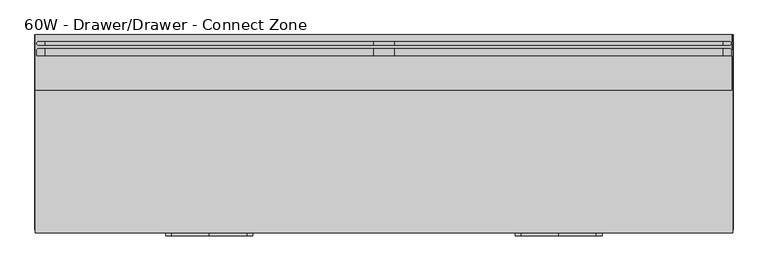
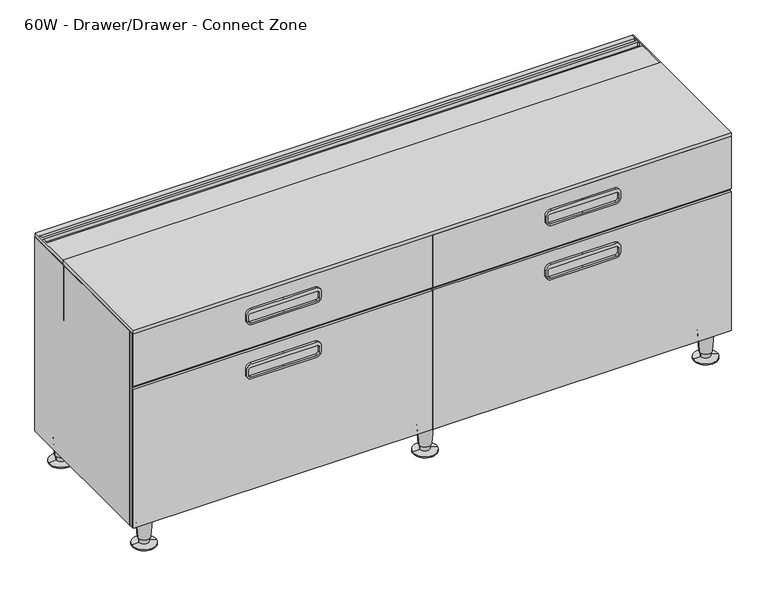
"""IFC4 building model written with IfcOpenShell, lengths in millimetres: furniture geometry, Steelcase - C Scape - Low Storage - 1.5 High - 60W and 72W : 60W - Drawer/Drawer - Connect Zone."""

from ifc_helpers import new_model, si_unit, point, frame, frame_2d, origin, place, context, project, spatial, polyline, circle_curve, trimmed, segment, composite_curve, outline, extrude, faceted_brep, source, transform, mapped, element, save
from ifc_brep_helpers import plane_surface, cylinder_surface, revolved_surface, advanced_brep


def furniture_60w_drawer_drawer_connect_zone_a07f5cdf(model_context):
    return source(origin(), model_context, "Body", "SolidModel", [
        advanced_brep(
        [(-302.0173728, -29.5783496, 599.4426137), (-302.0173728, -29.5783496, 458.7801967), (-302.0173728, -9.5194193, 458.7801967), (-302.0173728, -9.5194193, 466.2604814), (-302.0173728, 0.0055807, 466.2604814), (-302.0173728, 0.0055807, 599.4426137), (-302.0173728, -17.0388453, 599.4426137), (-302.0173728, -17.0388453, 609.5926846), (-302.0173728, -20.5059237, 609.5926846), (-302.0173728, -20.5059237, 599.4426137), (-302.0173728, -46.4703418, 599.4426137), (-302.0173728, -32.0458511, 599.4426137), (-302.0173728, -32.0458511, 609.5926846), (-302.0173728, -46.4703418, 609.5926846), (-304.8013237, -120.6444193, 599.4426137), (-304.8013237, -120.6444193, 609.5926846), (-304.8013237, 0.0055807, 609.5926846), (-304.8013237, 0.0055807, 466.2604814), (-304.8013237, -9.5194193, 466.2604814), (-304.8013237, -9.5194193, 458.7801967), (-304.8013237, -29.5783496, 458.7801967), (-304.8013237, -29.5783496, 599.4426137), (-299.2329352, -23.2903613, 599.4426137), (1212.1507358, -23.2903613, 599.4426137), (1215.1272317, -20.3138654, 599.4426137), (1215.1473728, -32.274699, 599.4426137), (1212.4308823, -29.5783496, 599.4426137), (-299.5498713, -29.5783496, 599.4426137), (1215.1473728, -46.4703418, 599.4426137), (1215.1473728, -120.5681445, 599.4426137), (-299.3205978, -14.3420703, 599.4426137), (1215.1473728, 0.0, 599.4426137), (1215.1473728, -17.0388453, 599.4426137), (1212.4505978, -14.3420703, 599.4426137), (1215.1473728, 0.0055807, 609.5926846), (1215.1473728, -120.5681445, 609.5926846), (1215.1473728, -46.4703418, 609.5926846), (-299.5498713, -29.5783496, 609.5926846), (1212.4308823, -29.5783496, 609.5926846), (1215.1272317, -32.274699, 609.5926846), (1215.1473728, -20.3138654, 609.5926846), (1212.1507358, -23.2903613, 609.5926846), (-299.2329352, -23.2903613, 609.5926846), (-299.3205978, -14.3420703, 609.5926846), (1212.4505978, -14.3420703, 609.5926846), (1215.1473728, -17.0388453, 609.5926846)],
        [
            (0, 1),
            (1, 2),
            (2, 3),
            (3, 4),
            (4, 5),
            (5, 6),
            (6, 7),
            (7, 8),
            (8, 9),
            (9, 0),
            (10, 11),
            (11, 12),
            (12, 13),
            (13, 10),
            (14, 15),
            (15, 16),
            (16, 17),
            (17, 18),
            (18, 19),
            (19, 20),
            (20, 21),
            (21, 14),
            (21, 0),
            (9, 22, circle_curve(frame((-299.2329352, -20.5059237, 599.4426137), z_axis=(0.0, 0.0, 1.0), x_axis=(1.0, 0.0, 0.0)), 2.7844376)),
            (22, 23),
            (23, 24, circle_curve(frame((1212.1507358, -20.3138654, 599.4426137), z_axis=(0.0, 0.0, 1.0), x_axis=(1.0, 0.0, 0.0)), 2.9764959)),
            (24, 25),
            (25, 26, circle_curve(frame((1212.4308823, -32.274699, 599.4426137), z_axis=(0.0, 0.0, 1.0), x_axis=(1.0, 0.0, 0.0)), 2.6963494)),
            (26, 27),
            (27, 11, circle_curve(frame((-299.5498713, -32.0458511, 599.4426137), z_axis=(0.0, 0.0, 1.0), x_axis=(1.0, 0.0, 0.0)), 2.4675015)),
            (10, 28),
            (28, 29),
            (29, 14),
            (30, 6, circle_curve(frame((-299.3205978, -17.0388453, 599.4426137), z_axis=(0.0, 0.0, 1.0), x_axis=(1.0, 0.0, 0.0)), 2.696775)),
            (5, 31),
            (31, 32),
            (32, 33, circle_curve(frame((1212.4505978, -17.0388453, 599.4426137), z_axis=(0.0, 0.0, 1.0), x_axis=(1.0, 0.0, 0.0)), 2.696775)),
            (33, 30),
            (20, 1),
            (19, 2),
            (18, 3),
            (17, 4),
            (16, 34),
            (34, 31),
            (15, 35),
            (35, 36),
            (36, 13),
            (12, 37, circle_curve(frame((-299.5498713, -32.0458511, 609.5926846), z_axis=(0.0, 0.0, -1.0), x_axis=(1.0, 0.0, 0.0)), 2.4675015)),
            (37, 38),
            (38, 39, circle_curve(frame((1212.4308823, -32.274699, 609.5926846), z_axis=(0.0, 0.0, -1.0), x_axis=(1.0, 0.0, 0.0)), 2.6963494)),
            (39, 40),
            (40, 41, circle_curve(frame((1212.1507358, -20.3138654, 609.5926846), z_axis=(0.0, 0.0, -1.0), x_axis=(1.0, 0.0, 0.0)), 2.9764959)),
            (41, 42),
            (42, 8, circle_curve(frame((-299.2329352, -20.5059237, 609.5926846), z_axis=(0.0, 0.0, -1.0), x_axis=(1.0, 0.0, 0.0)), 2.7844376)),
            (7, 43, circle_curve(frame((-299.3205978, -17.0388453, 609.5926846), z_axis=(0.0, 0.0, -1.0), x_axis=(1.0, 0.0, 0.0)), 2.696775)),
            (43, 44),
            (44, 45, circle_curve(frame((1212.4505978, -17.0388453, 609.5926846), z_axis=(0.0, 0.0, -1.0), x_axis=(1.0, 0.0, 0.0)), 2.696775)),
            (45, 34),
            (29, 35),
            (38, 26),
            (25, 39),
            (24, 40),
            (23, 41),
            (22, 42),
            (27, 37),
            (36, 28),
            (43, 30),
            (33, 44),
            (32, 45),
        ],
        [
            plane_surface(frame((-302.0173728, -120.6444193, 599.4426137), z_axis=(1.0, 0.0, 0.0), x_axis=(0.0, 1.0, 0.0))),
            plane_surface(frame((-304.8013237, -120.6444193, 599.4426137), z_axis=(-1.0, 0.0, 0.0), x_axis=(0.0, -1.0, 0.0))),
            plane_surface(frame((-302.0173728, -120.6444193, 599.4426137), z_axis=(0.0, 0.0, -1.0), x_axis=(-1.0, 0.0, 0.0))),
            plane_surface(frame((-302.0173728, -29.5783496, 599.4426137), z_axis=(0.0, -1.0, 0.0), x_axis=(-1.0, 0.0, 0.0))),
            plane_surface(frame((-302.0173728, -29.5783496, 458.7801967), z_axis=(0.0, 0.0, -1.0), x_axis=(-1.0, 0.0, 0.0))),
            plane_surface(frame((-302.0173728, -9.5194193, 458.7801967), z_axis=(0.0, 1.0, 0.0), x_axis=(-1.0, 0.0, 0.0))),
            plane_surface(frame((-302.0173728, -9.5194193, 466.2604814), z_axis=(0.0, 0.0, -1.0), x_axis=(-1.0, 0.0, 0.0))),
            plane_surface(frame((-302.0173728, 0.0055807, 466.2604814), z_axis=(0.0, 1.0, 0.0), x_axis=(-1.0, 0.0, 0.0))),
            plane_surface(frame((-302.0173728, 0.0055807, 609.5926846), z_axis=(0.0, 0.0, 1.0), x_axis=(-1.0, 0.0, 0.0))),
            plane_surface(frame((-302.0173728, -120.6444193, 609.5926846), z_axis=(0.0, -1.0, 0.0), x_axis=(-1.0, 0.0, 0.0))),
            revolved_surface(polyline([(1215.1272316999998, -32.274699, 599.4426137), (1215.1272316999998, -32.274699, 609.5926846)]), (1212.4308823, -32.274699, 599.4426137), (0.0, 0.0, -1.0)),
            plane_surface(frame((1215.1473728, -32.274699, 609.5926846), z_axis=(1.0, 0.0, 0.0), x_axis=(0.0, 0.0, -1.0))),
            revolved_surface(polyline([(1215.1272316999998, -20.3138654, 599.4426137), (1215.1272316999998, -20.3138654, 609.5926846)]), (1212.1507358, -20.3138654, 599.4426137), (0.0, 0.0, -1.0)),
            plane_surface(frame((1212.1507358, -23.2903613, 609.5926846), z_axis=(0.0, 1.0, 0.0), x_axis=(0.0, 0.0, -1.0))),
            revolved_surface(polyline([(-296.4484976, -20.5059237, 599.4426137), (-296.4484976, -20.5059237, 609.5926846)]), (-299.2329352, -20.5059237, 599.4426137), (0.0, 0.0, -1.0)),
            revolved_surface(polyline([(-297.0823698, -32.0458511, 599.4426137), (-297.0823698, -32.0458511, 609.5926846)]), (-299.5498713, -32.0458511, 599.4426137), (0.0, 0.0, -1.0)),
            plane_surface(frame((-299.5498713, -29.5783496, 609.5926846), z_axis=(0.0, -1.0, 0.0), x_axis=(0.0, 0.0, -1.0))),
            plane_surface(frame((1215.1473728, -46.4703418, 609.5926846), z_axis=(0.0, 1.0, 0.0), x_axis=(0.0, 0.0, -1.0))),
            plane_surface(frame((1215.1473728, -120.5681445, 609.5926846), z_axis=(1.0, 0.0, 0.0), x_axis=(0.0, 0.0, -1.0))),
            plane_surface(frame((-299.3205978, -14.3420703, 609.5926846), z_axis=(0.0, -1.0, 0.0), x_axis=(0.0, 0.0, -1.0))),
            revolved_surface(polyline([(1215.1473727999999, -17.0388453, 599.4426137), (1215.1473727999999, -17.0388453, 609.5926846)]), (1212.4505978, -17.0388453, 41.6222656), (0.0, 0.0, -1.0)),
            plane_surface(frame((1215.1473728, -17.0388453, 609.5926846), z_axis=(1.0, 0.0, 0.0), x_axis=(0.0, 0.0, -1.0))),
            revolved_surface(polyline([(-296.62382279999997, -17.0388453, 599.4426137), (-296.62382279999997, -17.0388453, 609.5926846)]), (-299.3205978, -17.0388453, 41.6222656), (0.0, 0.0, -1.0)),
        ],
        [
            (0, [[1, 2, 3, 4, 5, 6, 7, 8, 9, 10]]),
            (0, [[11, 12, 13, 14]]),
            (1, [[15, 16, 17, 18, 19, 20, 21, 22]]),
            (2, [[-22, 23, -10, 24, 25, 26, 27, 28, 29, 30, -11, 31, 32, 33]]),
            (2, [[34, -6, 35, 36, 37, 38]]),
            (3, [[-1, -23, -21, 39]]),
            (4, [[-2, -39, -20, 40]]),
            (5, [[-3, -40, -19, 41]]),
            (6, [[-4, -41, -18, 42]]),
            (7, [[-17, 43, 44, -35, -5, -42]]),
            (8, [[-43, -16, 45, 46, 47, -13, 48, 49, 50, 51, 52, 53, 54, -8, 55, 56, 57, 58]]),
            (9, [[-45, -15, -33, 59]]),
            (10, [[-50, 60, -28, 61]]),
            (11, [[-51, -61, -27, 62]]),
            (12, [[-52, -62, -26, 63]]),
            (13, [[-53, -63, -25, 64]]),
            (14, [[-54, -64, -24, -9]]),
            (15, [[-48, -12, -30, 65]]),
            (16, [[-49, -65, -29, -60]]),
            (17, [[-47, 66, -31, -14]]),
            (18, [[-46, -59, -32, -66]]),
            (19, [[-56, 67, -38, 68]]),
            (20, [[-57, -68, -37, 69]]),
            (21, [[-58, -69, -36, -44]]),
            (22, [[-55, -7, -34, -67]]),
        ],
    ),
        extrude(outline(polyline([(458.7240097, 572.1950189), (432.6382043, 572.1950189), (432.6382043, 449.8975), (432.6382043, 340.9349811), (458.7240097, 340.9349811), (458.7240097, -304.8013237), (92.7100024, -304.8013237), (92.7100024, 1217.93), (458.7240097, 1217.93), (458.7240097, 572.1950189)])), frame((0.0, -9.5194193, 0.0), z_axis=(0.0, 1.0, 0.0), x_axis=(0.0, 0.0, 1.0)), (0.0, 0.0, 1.0), 9.525),
        extrude(outline(polyline([(-120.6444193, 609.6), (-120.6444193, 450.8499879), (-126.9863574, 450.8499879), (-126.9863574, 599.4499291), (-433.07, 599.4499291), (-433.07, 609.6), (-120.6444193, 609.6)])), frame((-304.8013237, 0.0, 0.0), z_axis=(1.0, 0.0, 0.0), x_axis=(0.0, 1.0, 0.0)), (0.0, 0.0, 1.0), 1522.7313237),
        extrude(outline(polyline([(-120.6444193, 599.4426137), (-120.6444193, 609.5926846), (0.0055807, 609.5926846), (0.0055807, 466.2604814), (-9.5194193, 466.2604814), (-9.5194193, 458.7801967), (-29.5783496, 458.7801967), (-29.5783496, 599.4426137), (-120.6444193, 599.4426137)])), frame((1215.1473728, 0.0, 0.0), z_axis=(1.0, 0.0, 0.0), x_axis=(0.0, 1.0, 0.0)), (0.0, 0.0, 1.0), 2.7826272),
        extrude(outline(polyline([(76.1508625, -305.435), (76.1508625, 1218.565), (599.4400097, 1218.565), (599.4400097, 457.132594), (599.4400097, -305.435), (76.1508625, -305.435)]), holes=[polyline([(92.7100024, 447.6410976), (92.7100024, -283.4617676), (436.8800097, -283.4617676), (436.8800097, 447.6410976), (92.7100024, 447.6410976)]), polyline([(588.9625, -283.4617676), (588.9625, 447.6410976), (458.7240097, 447.6410976), (458.7240097, -283.4617676), (588.9625, -283.4617676)]), polyline([(436.8800097, 465.4889024), (436.8800097, 1196.5917676), (92.7100024, 1196.5917676), (92.7100024, 465.4889024), (436.8800097, 465.4889024)]), polyline([(588.9625, 1196.5917676), (458.7240097, 1196.5917676), (458.7240097, 465.4889024), (588.9625, 465.4889024), (588.9625, 1196.5917676)])]), frame((0.0, -426.7186111, 0.0), z_axis=(0.0, 1.0, 0.0), x_axis=(0.0, 0.0, 1.0)), (0.0, 0.0, 1.0), 7.3648883),
        extrude(outline(polyline([(1218.565, 0.0), (1218.565, -419.3537227), (1196.5917676, -419.3537227), (1196.5917676, 0.0), (1218.565, 0.0)])), frame((0.0, 0.0, 76.2), z_axis=(0.0, 0.0, 1.0), x_axis=(1.0, 0.0, 0.0)), (0.0, 0.0, 1.0), 523.2400097),
        extrude(outline(polyline([(-283.4630912, -419.3537227), (-305.435, -419.3537227), (-305.435, 0.0), (-283.4630912, 0.0), (-283.4630912, -419.3537227)])), frame((0.0, 0.0, 76.2), z_axis=(0.0, 0.0, 1.0), x_axis=(1.0, 0.0, 0.0)), (0.0, 0.0, 1.0), 523.2400097),
        extrude(outline(polyline([(434.0224874, -415.2912402), (434.0224874, -9.525), (479.1075126, -9.525), (479.1075126, -415.2912402), (434.0224874, -415.2912402)])), frame((0.0, 0.0, 76.2), z_axis=(0.0, 0.0, 1.0), x_axis=(1.0, 0.0, 0.0)), (0.0, 0.0, 1.0), 523.2400097),
        extrude(outline(polyline([(479.1075126, -9.525), (1196.5917676, -9.525), (1196.5917676, -415.2912402), (479.1075126, -415.2912402), (479.1075126, -9.525)])), frame((0.0, 0.0, 436.8800097), z_axis=(0.0, 0.0, 1.0), x_axis=(1.0, 0.0, 0.0)), (0.0, 0.0, 1.0), 21.844),
        extrude(outline(polyline([(434.0224874, -415.2912402), (-283.4617676, -415.2912402), (-283.4617676, -9.525), (434.0224874, -9.525), (434.0224874, -415.2912402)])), frame((0.0, 0.0, 436.8800097), z_axis=(0.0, 0.0, 1.0), x_axis=(1.0, 0.0, 0.0)), (0.0, 0.0, 1.0), 21.844),
        extrude(outline(composite_curve([segment(polyline([(419.0999879, 157.4804108), (419.0999879, 75.247655), (419.0999879, -6.9851007)]), True, "CONTINUOUS"), segment(trimmed(circle_curve(frame_2d((406.3999879, -6.9851007)), 12.7), [point((419.0999879, -6.9851007))], [point((406.3999879, -19.6851007))], False, "CARTESIAN"), True, "CONTINUOUS"), segment(polyline([(406.3999879, -19.6851007), (391.795017, -19.6851007)]), True, "CONTINUOUS"), segment(trimmed(circle_curve(frame_2d((391.795017, -6.9851007)), 12.7), [point((391.795017, -19.6851007))], [point((379.095017, -6.9851007))], False, "CARTESIAN"), True, "CONTINUOUS"), segment(polyline([(379.095017, -6.9851007), (379.095017, 75.247655), (379.095017, 157.4804108)]), True, "CONTINUOUS"), segment(trimmed(circle_curve(frame_2d((391.795017, 157.4804108)), 12.7), [point((379.095017, 157.4804108))], [point((391.795017, 170.1804108))], False, "CARTESIAN"), True, "CONTINUOUS"), segment(polyline([(391.795017, 170.1804108), (406.3999879, 170.1804108)]), True, "CONTINUOUS"), segment(trimmed(circle_curve(frame_2d((406.3999879, 157.4804108)), 12.7), [point((406.3999879, 170.1804108))], [point((419.0999879, 157.4804108))], False, "CARTESIAN"), True, "CONTINUOUS")], self_intersect=False), holes=[composite_curve([segment(polyline([(402.9710063, 165.3527985), (390.2709942, 165.3527985)]), True, "CONTINUOUS"), segment(trimmed(circle_curve(frame_2d((390.2709942, 159.0027985)), 6.35), [point((390.2709942, 165.3527985))], [point((383.9209942, 159.0027985))], True, "CARTESIAN"), True, "CONTINUOUS"), segment(polyline([(383.9209942, 159.0027985), (383.9209942, 75.247655), (383.9209942, -8.5074884)]), True, "CONTINUOUS"), segment(trimmed(circle_curve(frame_2d((390.2709942, -8.5074884)), 6.35), [point((383.9209942, -8.5074884))], [point((390.2709942, -14.8574884))], True, "CARTESIAN"), True, "CONTINUOUS"), segment(polyline([(390.2709942, -14.8574884), (402.9710063, -14.8574884)]), True, "CONTINUOUS"), segment(trimmed(circle_curve(frame_2d((402.9710063, -8.5074884)), 6.35), [point((402.9710063, -14.8574884))], [point((409.3210063, -8.5074884))], True, "CARTESIAN"), True, "CONTINUOUS"), segment(polyline([(409.3210063, -8.5074884), (409.3210063, 75.247655), (409.3210063, 159.0027985)]), True, "CONTINUOUS"), segment(trimmed(circle_curve(frame_2d((402.9710063, 159.0027985)), 6.35), [point((409.3210063, 159.0027985))], [point((402.9710063, 165.3527985))], True, "CARTESIAN"), True, "CONTINUOUS")], self_intersect=False)]), frame((0.0, -439.42, 0.0), z_axis=(0.0, 1.0, 0.0), x_axis=(0.0, 0.0, 1.0)), (0.0, 0.0, 1.0), 6.35),
        extrude(outline(composite_curve([segment(trimmed(circle_curve(frame_2d((406.3999879, 755.3320892)), 12.7), [point((419.0999879, 755.3320892))], [point((406.3999879, 742.6320892))], False, "CARTESIAN"), True, "CONTINUOUS"), segment(polyline([(406.3999879, 742.6320892), (391.795017, 742.6320892)]), True, "CONTINUOUS"), segment(trimmed(circle_curve(frame_2d((391.795017, 755.3320892)), 12.7), [point((391.795017, 742.6320892))], [point((379.095017, 755.3320892))], False, "CARTESIAN"), True, "CONTINUOUS"), segment(polyline([(379.095017, 755.3320892), (379.095017, 837.564845), (379.095017, 919.7976007)]), True, "CONTINUOUS"), segment(trimmed(circle_curve(frame_2d((391.795017, 919.7976007)), 12.7), [point((379.095017, 919.7976007))], [point((391.795017, 932.4976007))], False, "CARTESIAN"), True, "CONTINUOUS"), segment(polyline([(391.795017, 932.4976007), (406.3999879, 932.4976007)]), True, "CONTINUOUS"), segment(trimmed(circle_curve(frame_2d((406.3999879, 919.7976007)), 12.7), [point((406.3999879, 932.4976007))], [point((419.0999879, 919.7976007))], False, "CARTESIAN"), True, "CONTINUOUS"), segment(polyline([(419.0999879, 919.7976007), (419.0999879, 837.564845), (419.0999879, 755.3320892)]), True, "CONTINUOUS")], self_intersect=False), holes=[composite_curve([segment(trimmed(circle_curve(frame_2d((402.9710063, 753.8097015)), 6.35), [point((402.9710063, 747.4597015))], [point((409.3210063, 753.8097015))], True, "CARTESIAN"), True, "CONTINUOUS"), segment(polyline([(409.3210063, 753.8097015), (409.3210063, 837.564845), (409.3210063, 921.3199884)]), True, "CONTINUOUS"), segment(trimmed(circle_curve(frame_2d((402.9710063, 921.3199884)), 6.35), [point((409.3210063, 921.3199884))], [point((402.9710063, 927.6699884))], True, "CARTESIAN"), True, "CONTINUOUS"), segment(polyline([(402.9710063, 927.6699884), (390.2709942, 927.6699884)]), True, "CONTINUOUS"), segment(trimmed(circle_curve(frame_2d((390.2709942, 921.3199884)), 6.35), [point((390.2709942, 927.6699884))], [point((383.9209942, 921.3199884))], True, "CARTESIAN"), True, "CONTINUOUS"), segment(polyline([(383.9209942, 921.3199884), (383.9209942, 837.564845), (383.9209942, 753.8097015)]), True, "CONTINUOUS"), segment(trimmed(circle_curve(frame_2d((390.2709942, 753.8097015)), 6.35), [point((383.9209942, 753.8097015))], [point((390.2709942, 747.4597015))], True, "CARTESIAN"), True, "CONTINUOUS"), segment(polyline([(390.2709942, 747.4597015), (402.9710063, 747.4597015)]), True, "CONTINUOUS")], self_intersect=False)]), frame((0.0, -439.42, 0.0), z_axis=(0.0, 1.0, 0.0), x_axis=(0.0, 0.0, 1.0)), (0.0, 0.0, 1.0), 6.35),
        extrude(outline(polyline([(455.9303101, -426.7186111), (455.9303101, -433.07), (-304.8, -433.07), (-304.8, -426.7186111), (455.9303101, -426.7186111)])), frame((0.0, 0.0, 458.7240097), z_axis=(0.0, 0.0, 1.0), x_axis=(1.0, 0.0, 0.0)), (0.0, 0.0, 1.0), 140.716),
        extrude(outline(polyline([(457.1996899, -426.7186111), (1217.93, -426.7186111), (1217.93, -433.07), (457.1996899, -433.07), (457.1996899, -426.7186111)])), frame((0.0, 0.0, 458.7240097), z_axis=(0.0, 0.0, 1.0), x_axis=(1.0, 0.0, 0.0)), (0.0, 0.0, 1.0), 140.716),
        faceted_brep([(-283.4617676, -419.3537227, 92.7100024), (1196.5917676, -419.3537227, 92.7100024), (1196.5917676, -9.525, 92.7100024), (479.1075126, -9.525, 92.7100024), (479.1075126, -415.2912402, 92.7100024), (434.0224874, -415.2912402, 92.7100024), (434.0224874, -9.525, 92.7100024), (-283.4617676, -9.525, 92.7100024), (1218.565, 0.0, 76.2), (1218.565, -419.3537227, 76.2), (-305.435, -419.3537227, 76.2), (-305.435, 0.0, 76.2), (-283.4630912, -419.3537227, 599.4400097), (-305.435, -419.3537227, 599.4400097), (1218.565, -419.3537227, 599.4400097), (1196.5917676, -419.3537227, 599.4400097), (-305.435, 0.0, 599.4400097), (1218.565, 0.0, 599.4400097), (-283.4630912, -9.525, 599.4400097), (434.0224874, -9.525, 599.4400097), (434.0224874, -415.2912402, 599.4400097), (479.1075126, -415.2912402, 599.4400097), (479.1075126, -9.525, 599.4400097), (1196.5917676, -9.525, 599.4400097)], [[[0, 1, 2, 3, 4, 5, 6, 7]], [[8, 9, 10, 11]], [[1, 0, 12, 13, 10, 9, 14, 15]], [[8, 11, 16, 17]], [[16, 13, 12, 18, 19, 20, 21, 22, 23, 15, 14, 17]], [[18, 12, 0, 7]], [[19, 18, 7, 6]], [[20, 19, 6, 5]], [[22, 21, 4, 3]], [[23, 22, 3, 2]], [[15, 23, 2, 1]], [[13, 16, 11, 10]], [[17, 14, 9, 8]], [[21, 20, 5, 4]]]),
        extrude(outline(composite_curve([segment(polyline([(565.1499879, 157.4804108), (565.1499879, 75.247655), (565.1499879, -6.9851007)]), True, "CONTINUOUS"), segment(trimmed(circle_curve(frame_2d((552.4499879, -6.9851007)), 12.7), [point((565.1499879, -6.9851007))], [point((552.4499879, -19.6851007))], False, "CARTESIAN"), True, "CONTINUOUS"), segment(polyline([(552.4499879, -19.6851007), (537.845017, -19.6851007)]), True, "CONTINUOUS"), segment(trimmed(circle_curve(frame_2d((537.845017, -6.9851007)), 12.7), [point((537.845017, -19.6851007))], [point((525.145017, -6.9851007))], False, "CARTESIAN"), True, "CONTINUOUS"), segment(polyline([(525.145017, -6.9851007), (525.145017, 75.247655), (525.145017, 157.4804108)]), True, "CONTINUOUS"), segment(trimmed(circle_curve(frame_2d((537.845017, 157.4804108)), 12.7), [point((525.145017, 157.4804108))], [point((537.845017, 170.1804108))], False, "CARTESIAN"), True, "CONTINUOUS"), segment(polyline([(537.845017, 170.1804108), (552.4499879, 170.1804108)]), True, "CONTINUOUS"), segment(trimmed(circle_curve(frame_2d((552.4499879, 157.4804108)), 12.7), [point((552.4499879, 170.1804108))], [point((565.1499879, 157.4804108))], False, "CARTESIAN"), True, "CONTINUOUS")], self_intersect=False), holes=[composite_curve([segment(polyline([(549.0210063, 165.3527985), (536.3209942, 165.3527985)]), True, "CONTINUOUS"), segment(trimmed(circle_curve(frame_2d((536.3209942, 159.0027985)), 6.35), [point((536.3209942, 165.3527985))], [point((529.9709942, 159.0027985))], True, "CARTESIAN"), True, "CONTINUOUS"), segment(polyline([(529.9709942, 159.0027985), (529.9709942, 75.247655), (529.9709942, -8.5074884)]), True, "CONTINUOUS"), segment(trimmed(circle_curve(frame_2d((536.3209942, -8.5074884)), 6.35), [point((529.9709942, -8.5074884))], [point((536.3209942, -14.8574884))], True, "CARTESIAN"), True, "CONTINUOUS"), segment(polyline([(536.3209942, -14.8574884), (549.0210063, -14.8574884)]), True, "CONTINUOUS"), segment(trimmed(circle_curve(frame_2d((549.0210063, -8.5074884)), 6.35), [point((549.0210063, -14.8574884))], [point((555.3710063, -8.5074884))], True, "CARTESIAN"), True, "CONTINUOUS"), segment(polyline([(555.3710063, -8.5074884), (555.3710063, 75.247655), (555.3710063, 159.0027985)]), True, "CONTINUOUS"), segment(trimmed(circle_curve(frame_2d((549.0210063, 159.0027985)), 6.35), [point((555.3710063, 159.0027985))], [point((549.0210063, 165.3527985))], True, "CARTESIAN"), True, "CONTINUOUS")], self_intersect=False)]), frame((0.0, -439.42, 0.0), z_axis=(0.0, 1.0, 0.0), x_axis=(0.0, 0.0, 1.0)), (0.0, 0.0, 1.0), 6.35),
        extrude(outline(polyline([(455.9303101, -426.7186111), (455.9303101, -433.07), (-304.8, -433.07), (-304.8, -426.7186111), (455.9303101, -426.7186111)])), frame((0.0, 0.0, 76.2), z_axis=(0.0, 0.0, 1.0), x_axis=(1.0, 0.0, 0.0)), (0.0, 0.0, 1.0), 374.6500097),
        advanced_brep(
        [(427.4539515, -29.9489775, 0.0), (485.6760485, -38.8569507, 0.0), (456.565, -34.4029641, 0.0), (427.4539515, -29.9489775, 2.5119506), (485.6760485, -38.8569507, 2.5119506), (444.802835, -32.6033544, 5.7545598), (468.327165, -36.2025738, 5.7545598), (444.1140655, -32.4979728, 19.05), (469.0159345, -36.3079555, 19.05), (441.6844786, -32.1262463, 19.05), (471.4455214, -36.6796819, 19.05), (437.7341305, -31.5218435, 76.2), (475.3958695, -37.2840847, 76.2), (456.565, -34.4029641, 76.2)],
        [
            (0, 1, circle_curve(frame((456.565, -34.4029641, 0.0), z_axis=(0.0, 0.0, -1.0), x_axis=(0.0, -1.0, 0.0)), 29.4498071)),
            (1, 2),
            (2, 0),
            (1, 0, circle_curve(frame((456.565, -34.4029641, 0.0), z_axis=(0.0, 0.0, -1.0), x_axis=(0.0, -1.0, 0.0)), 29.4498071)),
            (3, 4, circle_curve(frame((456.565, -34.4029641, 2.5119506), z_axis=(0.0, 0.0, -1.0), x_axis=(0.0, -1.0, 0.0)), 29.4498071)),
            (4, 1),
            (0, 3),
            (4, 3, circle_curve(frame((456.565, -34.4029641, 2.5119506), z_axis=(0.0, 0.0, -1.0), x_axis=(0.0, -1.0, 0.0)), 29.4498071)),
            (5, 6, circle_curve(frame((456.565, -34.4029641, 5.7545598), z_axis=(0.0, 0.0, -1.0), x_axis=(0.0, -1.0, 0.0)), 11.8990387)),
            (6, 4),
            (3, 5),
            (6, 5, circle_curve(frame((456.565, -34.4029641, 5.7545598), z_axis=(0.0, 0.0, -1.0), x_axis=(0.0, -1.0, 0.0)), 11.8990387)),
            (7, 8, circle_curve(frame((456.565, -34.4029641, 19.05), z_axis=(0.0, 0.0, -1.0), x_axis=(0.0, -1.0, 0.0)), 12.5958232)),
            (8, 6),
            (5, 7),
            (8, 7, circle_curve(frame((456.565, -34.4029641, 19.05), z_axis=(0.0, 0.0, -1.0), x_axis=(0.0, -1.0, 0.0)), 12.5958232)),
            (9, 10, circle_curve(frame((456.565, -34.4029641, 19.05), z_axis=(0.0, 0.0, -1.0), x_axis=(0.0, -1.0, 0.0)), 15.0536827)),
            (10, 8),
            (7, 9),
            (10, 9, circle_curve(frame((456.565, -34.4029641, 19.05), z_axis=(0.0, 0.0, -1.0), x_axis=(0.0, -1.0, 0.0)), 15.0536827)),
            (11, 12, circle_curve(frame((456.565, -34.4029641, 76.2), z_axis=(0.0, 0.0, -1.0), x_axis=(0.0, -1.0, 0.0)), 19.05)),
            (12, 10),
            (9, 11),
            (12, 11, circle_curve(frame((456.565, -34.4029641, 76.2), z_axis=(0.0, 0.0, -1.0), x_axis=(0.0, -1.0, 0.0)), 19.05)),
            (13, 12),
            (11, 13),
        ],
        [
            plane_surface(frame((456.565, -34.4029641, 0.0), z_axis=(0.0, 0.0, -1.0), x_axis=(0.0, -1.0, 0.0))),
            cylinder_surface(frame((456.565, -34.4029641, 25.4), z_axis=(0.0, 0.0, 1.0), x_axis=(0.0, -1.0, 0.0)), 29.4498071),
            revolved_surface(polyline([(456.565, -63.8527712, 2.5119506), (456.565, -46.3020028, 5.7545598)]), (456.565, -34.4029641, 25.4), (0.0, 0.0, 1.0)),
            revolved_surface(polyline([(456.565, -46.3020028, 5.7545598), (456.565, -46.9987873, 19.05)]), (456.565, -34.4029641, 25.4), (0.0, 0.0, 1.0)),
            plane_surface(frame((456.565, -34.4029641, 19.05), z_axis=(0.0, 0.0, -1.0), x_axis=(0.0, -1.0, 0.0))),
            revolved_surface(polyline([(456.565, -49.4566468, 19.05), (456.565, -53.4529641, 76.2)]), (456.565, -34.4029641, 25.4), (0.0, 0.0, 1.0)),
            plane_surface(frame((456.565, -34.4029641, 76.2), z_axis=(0.0, 0.0, 1.0), x_axis=(0.0, -1.0, 0.0))),
        ],
        [
            (0, [[1, 2, 3]]),
            (0, [[4, -3, -2]]),
            (1, [[5, 6, -1, 7]]),
            (1, [[8, -7, -4, -6]]),
            (2, [[9, 10, -5, 11]]),
            (2, [[12, -11, -8, -10]]),
            (3, [[13, 14, -9, 15]]),
            (3, [[16, -15, -12, -14]]),
            (4, [[17, 18, -13, 19]]),
            (4, [[20, -19, -16, -18]]),
            (5, [[21, 22, -17, 23]]),
            (5, [[24, -23, -20, -22]]),
            (6, [[25, -21, 26]]),
            (6, [[-26, -24, -25]]),
        ],
    ),
        advanced_brep(
        [(427.4539515, -395.5974102, 0.0), (485.6760485, -404.5053834, 0.0), (456.565, -400.0513968, 0.0), (427.4539515, -395.5974102, 2.5119506), (485.6760485, -404.5053834, 2.5119506), (444.802835, -398.2517871, 5.7545598), (468.327165, -401.8510065, 5.7545598), (444.1140655, -398.1464055, 19.05), (469.0159345, -401.9563882, 19.05), (441.6844786, -397.774679, 19.05), (471.4455214, -402.3281146, 19.05), (437.7341305, -397.1702762, 76.2), (475.3958695, -402.9325174, 76.2), (456.565, -400.0513968, 76.2)],
        [
            (0, 1, circle_curve(frame((456.565, -400.0513968, 0.0), z_axis=(0.0, 0.0, -1.0), x_axis=(0.0, -1.0, 0.0)), 29.4498071)),
            (1, 2),
            (2, 0),
            (1, 0, circle_curve(frame((456.565, -400.0513968, 0.0), z_axis=(0.0, 0.0, -1.0), x_axis=(0.0, -1.0, 0.0)), 29.4498071)),
            (3, 4, circle_curve(frame((456.565, -400.0513968, 2.5119506), z_axis=(0.0, 0.0, -1.0), x_axis=(0.0, -1.0, 0.0)), 29.4498071)),
            (4, 1),
            (0, 3),
            (4, 3, circle_curve(frame((456.565, -400.0513968, 2.5119506), z_axis=(0.0, 0.0, -1.0), x_axis=(0.0, -1.0, 0.0)), 29.4498071)),
            (5, 6, circle_curve(frame((456.565, -400.0513968, 5.7545598), z_axis=(0.0, 0.0, -1.0), x_axis=(0.0, -1.0, 0.0)), 11.8990387)),
            (6, 4),
            (3, 5),
            (6, 5, circle_curve(frame((456.565, -400.0513968, 5.7545598), z_axis=(0.0, 0.0, -1.0), x_axis=(0.0, -1.0, 0.0)), 11.8990387)),
            (7, 8, circle_curve(frame((456.565, -400.0513968, 19.05), z_axis=(0.0, 0.0, -1.0), x_axis=(0.0, -1.0, 0.0)), 12.5958232)),
            (8, 6),
            (5, 7),
            (8, 7, circle_curve(frame((456.565, -400.0513968, 19.05), z_axis=(0.0, 0.0, -1.0), x_axis=(0.0, -1.0, 0.0)), 12.5958232)),
            (9, 10, circle_curve(frame((456.565, -400.0513968, 19.05), z_axis=(0.0, 0.0, -1.0), x_axis=(0.0, -1.0, 0.0)), 15.0536827)),
            (10, 8),
            (7, 9),
            (10, 9, circle_curve(frame((456.565, -400.0513968, 19.05), z_axis=(0.0, 0.0, -1.0), x_axis=(0.0, -1.0, 0.0)), 15.0536827)),
            (11, 12, circle_curve(frame((456.565, -400.0513968, 76.2), z_axis=(0.0, 0.0, -1.0), x_axis=(0.0, -1.0, 0.0)), 19.05)),
            (12, 10),
            (9, 11),
            (12, 11, circle_curve(frame((456.565, -400.0513968, 76.2), z_axis=(0.0, 0.0, -1.0), x_axis=(0.0, -1.0, 0.0)), 19.05)),
            (13, 12),
            (11, 13),
        ],
        [
            plane_surface(frame((456.565, -400.0513968, 0.0), z_axis=(0.0, 0.0, -1.0), x_axis=(0.0, -1.0, 0.0))),
            cylinder_surface(frame((456.565, -400.0513968, 25.4), z_axis=(0.0, 0.0, 1.0), x_axis=(0.0, -1.0, 0.0)), 29.4498071),
            revolved_surface(polyline([(456.565, -429.5012039, 2.5119506), (456.565, -411.9504355, 5.7545598)]), (456.565, -400.0513968, 25.4), (0.0, 0.0, 1.0)),
            revolved_surface(polyline([(456.565, -411.9504355, 5.7545598), (456.565, -412.64722, 19.05)]), (456.565, -400.0513968, 25.4), (0.0, 0.0, 1.0)),
            plane_surface(frame((456.565, -400.0513968, 19.05), z_axis=(0.0, 0.0, -1.0), x_axis=(0.0, -1.0, 0.0))),
            revolved_surface(polyline([(456.565, -415.1050795, 19.05), (456.565, -419.1013968, 76.2)]), (456.565, -400.0513968, 25.4), (0.0, 0.0, 1.0)),
            plane_surface(frame((456.565, -400.0513968, 76.2), z_axis=(0.0, 0.0, 1.0), x_axis=(0.0, -1.0, 0.0))),
        ],
        [
            (0, [[1, 2, 3]]),
            (0, [[4, -3, -2]]),
            (1, [[5, 6, -1, 7]]),
            (1, [[8, -7, -4, -6]]),
            (2, [[9, 10, -5, 11]]),
            (2, [[12, -11, -8, -10]]),
            (3, [[13, 14, -9, 15]]),
            (3, [[16, -15, -12, -14]]),
            (4, [[17, 18, -13, 19]]),
            (4, [[20, -19, -16, -18]]),
            (5, [[21, 22, -17, 23]]),
            (5, [[24, -23, -20, -22]]),
            (6, [[25, -21, 26]]),
            (6, [[-26, -24, -25]]),
        ],
    ),
        extrude(outline(composite_curve([segment(trimmed(circle_curve(frame_2d((552.4499879, 755.3320892)), 12.7), [point((565.1499879, 755.3320892))], [point((552.4499879, 742.6320892))], False, "CARTESIAN"), True, "CONTINUOUS"), segment(polyline([(552.4499879, 742.6320892), (537.845017, 742.6320892)]), True, "CONTINUOUS"), segment(trimmed(circle_curve(frame_2d((537.845017, 755.3320892)), 12.7), [point((537.845017, 742.6320892))], [point((525.145017, 755.3320892))], False, "CARTESIAN"), True, "CONTINUOUS"), segment(polyline([(525.145017, 755.3320892), (525.145017, 837.564845), (525.145017, 919.7976007)]), True, "CONTINUOUS"), segment(trimmed(circle_curve(frame_2d((537.845017, 919.7976007)), 12.7), [point((525.145017, 919.7976007))], [point((537.845017, 932.4976007))], False, "CARTESIAN"), True, "CONTINUOUS"), segment(polyline([(537.845017, 932.4976007), (552.4499879, 932.4976007)]), True, "CONTINUOUS"), segment(trimmed(circle_curve(frame_2d((552.4499879, 919.7976007)), 12.7), [point((552.4499879, 932.4976007))], [point((565.1499879, 919.7976007))], False, "CARTESIAN"), True, "CONTINUOUS"), segment(polyline([(565.1499879, 919.7976007), (565.1499879, 837.564845), (565.1499879, 755.3320892)]), True, "CONTINUOUS")], self_intersect=False), holes=[composite_curve([segment(trimmed(circle_curve(frame_2d((549.0210063, 753.8097015)), 6.35), [point((549.0210063, 747.4597015))], [point((555.3710063, 753.8097015))], True, "CARTESIAN"), True, "CONTINUOUS"), segment(polyline([(555.3710063, 753.8097015), (555.3710063, 837.564845), (555.3710063, 921.3199884)]), True, "CONTINUOUS"), segment(trimmed(circle_curve(frame_2d((549.0210063, 921.3199884)), 6.35), [point((555.3710063, 921.3199884))], [point((549.0210063, 927.6699884))], True, "CARTESIAN"), True, "CONTINUOUS"), segment(polyline([(549.0210063, 927.6699884), (536.3209942, 927.6699884)]), True, "CONTINUOUS"), segment(trimmed(circle_curve(frame_2d((536.3209942, 921.3199884)), 6.35), [point((536.3209942, 927.6699884))], [point((529.9709942, 921.3199884))], True, "CARTESIAN"), True, "CONTINUOUS"), segment(polyline([(529.9709942, 921.3199884), (529.9709942, 837.564845), (529.9709942, 753.8097015)]), True, "CONTINUOUS"), segment(trimmed(circle_curve(frame_2d((536.3209942, 753.8097015)), 6.35), [point((529.9709942, 753.8097015))], [point((536.3209942, 747.4597015))], True, "CARTESIAN"), True, "CONTINUOUS"), segment(polyline([(536.3209942, 747.4597015), (549.0210063, 747.4597015)]), True, "CONTINUOUS")], self_intersect=False)]), frame((0.0, -439.42, 0.0), z_axis=(0.0, 1.0, 0.0), x_axis=(0.0, 0.0, 1.0)), (0.0, 0.0, 1.0), 6.35),
        advanced_brep(
        [(1142.1075389, -29.9489775, 0.0), (1200.3296359, -38.8569507, 0.0), (1171.2185874, -34.4029641, 0.0), (1142.1075389, -29.9489775, 2.5119506), (1200.3296359, -38.8569507, 2.5119506), (1159.4564224, -32.6033544, 5.7545598), (1182.9807524, -36.2025738, 5.7545598), (1158.7676529, -32.4979728, 19.05), (1183.6695219, -36.3079555, 19.05), (1156.3380659, -32.1262463, 19.05), (1186.0991088, -36.6796819, 19.05), (1152.3877179, -31.5218435, 76.2), (1190.0494568, -37.2840847, 76.2), (1171.2185874, -34.4029641, 76.2)],
        [
            (0, 1, circle_curve(frame((1171.2185874, -34.4029641, 0.0), z_axis=(0.0, 0.0, -1.0), x_axis=(0.0, -1.0, 0.0)), 29.4498071)),
            (1, 2),
            (2, 0),
            (1, 0, circle_curve(frame((1171.2185874, -34.4029641, 0.0), z_axis=(0.0, 0.0, -1.0), x_axis=(0.0, -1.0, 0.0)), 29.4498071)),
            (3, 4, circle_curve(frame((1171.2185874, -34.4029641, 2.5119506), z_axis=(0.0, 0.0, -1.0), x_axis=(0.0, -1.0, 0.0)), 29.4498071)),
            (4, 1),
            (0, 3),
            (4, 3, circle_curve(frame((1171.2185874, -34.4029641, 2.5119506), z_axis=(0.0, 0.0, -1.0), x_axis=(0.0, -1.0, 0.0)), 29.4498071)),
            (5, 6, circle_curve(frame((1171.2185874, -34.4029641, 5.7545598), z_axis=(0.0, 0.0, -1.0), x_axis=(0.0, -1.0, 0.0)), 11.8990387)),
            (6, 4),
            (3, 5),
            (6, 5, circle_curve(frame((1171.2185874, -34.4029641, 5.7545598), z_axis=(0.0, 0.0, -1.0), x_axis=(0.0, -1.0, 0.0)), 11.8990387)),
            (7, 8, circle_curve(frame((1171.2185874, -34.4029641, 19.05), z_axis=(0.0, 0.0, -1.0), x_axis=(0.0, -1.0, 0.0)), 12.5958232)),
            (8, 6),
            (5, 7),
            (8, 7, circle_curve(frame((1171.2185874, -34.4029641, 19.05), z_axis=(0.0, 0.0, -1.0), x_axis=(0.0, -1.0, 0.0)), 12.5958232)),
            (9, 10, circle_curve(frame((1171.2185874, -34.4029641, 19.05), z_axis=(0.0, 0.0, -1.0), x_axis=(0.0, -1.0, 0.0)), 15.0536827)),
            (10, 8),
            (7, 9),
            (10, 9, circle_curve(frame((1171.2185874, -34.4029641, 19.05), z_axis=(0.0, 0.0, -1.0), x_axis=(0.0, -1.0, 0.0)), 15.0536827)),
            (11, 12, circle_curve(frame((1171.2185874, -34.4029641, 76.2), z_axis=(0.0, 0.0, -1.0), x_axis=(0.0, -1.0, 0.0)), 19.05)),
            (12, 10),
            (9, 11),
            (12, 11, circle_curve(frame((1171.2185874, -34.4029641, 76.2), z_axis=(0.0, 0.0, -1.0), x_axis=(0.0, -1.0, 0.0)), 19.05)),
            (13, 12),
            (11, 13),
        ],
        [
            plane_surface(frame((1171.2185874, -34.4029641, 0.0), z_axis=(0.0, 0.0, -1.0), x_axis=(0.0, -1.0, 0.0))),
            cylinder_surface(frame((1171.2185874, -34.4029641, 25.4), z_axis=(0.0, 0.0, 1.0), x_axis=(0.0, -1.0, 0.0)), 29.4498071),
            revolved_surface(polyline([(1171.2185874, -63.8527712, 2.5119506), (1171.2185874, -46.3020028, 5.7545598)]), (1171.2185874, -34.4029641, 25.4), (0.0, 0.0, 1.0)),
            revolved_surface(polyline([(1171.2185874, -46.3020028, 5.7545598), (1171.2185874, -46.9987873, 19.05)]), (1171.2185874, -34.4029641, 25.4), (0.0, 0.0, 1.0)),
            plane_surface(frame((1171.2185874, -34.4029641, 19.05), z_axis=(0.0, 0.0, -1.0), x_axis=(0.0, -1.0, 0.0))),
            revolved_surface(polyline([(1171.2185874, -49.4566468, 19.05), (1171.2185874, -53.4529641, 76.2)]), (1171.2185874, -34.4029641, 25.4), (0.0, 0.0, 1.0)),
            plane_surface(frame((1171.2185874, -34.4029641, 76.2), z_axis=(0.0, 0.0, 1.0), x_axis=(0.0, -1.0, 0.0))),
        ],
        [
            (0, [[1, 2, 3]]),
            (0, [[4, -3, -2]]),
            (1, [[5, 6, -1, 7]]),
            (1, [[8, -7, -4, -6]]),
            (2, [[9, 10, -5, 11]]),
            (2, [[12, -11, -8, -10]]),
            (3, [[13, 14, -9, 15]]),
            (3, [[16, -15, -12, -14]]),
            (4, [[17, 18, -13, 19]]),
            (4, [[20, -19, -16, -18]]),
            (5, [[21, 22, -17, 23]]),
            (5, [[24, -23, -20, -22]]),
            (6, [[25, -21, 26]]),
            (6, [[-26, -24, -25]]),
        ],
    ),
        advanced_brep(
        [(1142.1075389, -395.5974102, 0.0), (1200.3296359, -404.5053834, 0.0), (1171.2185874, -400.0513968, 0.0), (1142.1075389, -395.5974102, 2.5119506), (1200.3296359, -404.5053834, 2.5119506), (1159.4564224, -398.2517871, 5.7545598), (1182.9807524, -401.8510065, 5.7545598), (1158.7676529, -398.1464055, 19.05), (1183.6695219, -401.9563882, 19.05), (1156.3380659, -397.774679, 19.05), (1186.0991088, -402.3281146, 19.05), (1152.3877179, -397.1702762, 76.2), (1190.0494568, -402.9325174, 76.2), (1171.2185874, -400.0513968, 76.2)],
        [
            (0, 1, circle_curve(frame((1171.2185874, -400.0513968, 0.0), z_axis=(0.0, 0.0, -1.0), x_axis=(0.0, -1.0, 0.0)), 29.4498071)),
            (1, 2),
            (2, 0),
            (1, 0, circle_curve(frame((1171.2185874, -400.0513968, 0.0), z_axis=(0.0, 0.0, -1.0), x_axis=(0.0, -1.0, 0.0)), 29.4498071)),
            (3, 4, circle_curve(frame((1171.2185874, -400.0513968, 2.5119506), z_axis=(0.0, 0.0, -1.0), x_axis=(0.0, -1.0, 0.0)), 29.4498071)),
            (4, 1),
            (0, 3),
            (4, 3, circle_curve(frame((1171.2185874, -400.0513968, 2.5119506), z_axis=(0.0, 0.0, -1.0), x_axis=(0.0, -1.0, 0.0)), 29.4498071)),
            (5, 6, circle_curve(frame((1171.2185874, -400.0513968, 5.7545598), z_axis=(0.0, 0.0, -1.0), x_axis=(0.0, -1.0, 0.0)), 11.8990387)),
            (6, 4),
            (3, 5),
            (6, 5, circle_curve(frame((1171.2185874, -400.0513968, 5.7545598), z_axis=(0.0, 0.0, -1.0), x_axis=(0.0, -1.0, 0.0)), 11.8990387)),
            (7, 8, circle_curve(frame((1171.2185874, -400.0513968, 19.05), z_axis=(0.0, 0.0, -1.0), x_axis=(0.0, -1.0, 0.0)), 12.5958232)),
            (8, 6),
            (5, 7),
            (8, 7, circle_curve(frame((1171.2185874, -400.0513968, 19.05), z_axis=(0.0, 0.0, -1.0), x_axis=(0.0, -1.0, 0.0)), 12.5958232)),
            (9, 10, circle_curve(frame((1171.2185874, -400.0513968, 19.05), z_axis=(0.0, 0.0, -1.0), x_axis=(0.0, -1.0, 0.0)), 15.0536827)),
            (10, 8),
            (7, 9),
            (10, 9, circle_curve(frame((1171.2185874, -400.0513968, 19.05), z_axis=(0.0, 0.0, -1.0), x_axis=(0.0, -1.0, 0.0)), 15.0536827)),
            (11, 12, circle_curve(frame((1171.2185874, -400.0513968, 76.2), z_axis=(0.0, 0.0, -1.0), x_axis=(0.0, -1.0, 0.0)), 19.05)),
            (12, 10),
            (9, 11),
            (12, 11, circle_curve(frame((1171.2185874, -400.0513968, 76.2), z_axis=(0.0, 0.0, -1.0), x_axis=(0.0, -1.0, 0.0)), 19.05)),
            (13, 12),
            (11, 13),
        ],
        [
            plane_surface(frame((1171.2185874, -400.0513968, 0.0), z_axis=(0.0, 0.0, -1.0), x_axis=(0.0, -1.0, 0.0))),
            cylinder_surface(frame((1171.2185874, -400.0513968, 25.4), z_axis=(0.0, 0.0, 1.0), x_axis=(0.0, -1.0, 0.0)), 29.4498071),
            revolved_surface(polyline([(1171.2185874, -429.5012039, 2.5119506), (1171.2185874, -411.9504355, 5.7545598)]), (1171.2185874, -400.0513968, 25.4), (0.0, 0.0, 1.0)),
            revolved_surface(polyline([(1171.2185874, -411.9504355, 5.7545598), (1171.2185874, -412.64722, 19.05)]), (1171.2185874, -400.0513968, 25.4), (0.0, 0.0, 1.0)),
            plane_surface(frame((1171.2185874, -400.0513968, 19.05), z_axis=(0.0, 0.0, -1.0), x_axis=(0.0, -1.0, 0.0))),
            revolved_surface(polyline([(1171.2185874, -415.1050795, 19.05), (1171.2185874, -419.1013968, 76.2)]), (1171.2185874, -400.0513968, 25.4), (0.0, 0.0, 1.0)),
            plane_surface(frame((1171.2185874, -400.0513968, 76.2), z_axis=(0.0, 0.0, 1.0), x_axis=(0.0, -1.0, 0.0))),
        ],
        [
            (0, [[1, 2, 3]]),
            (0, [[4, -3, -2]]),
            (1, [[5, 6, -1, 7]]),
            (1, [[8, -7, -4, -6]]),
            (2, [[9, 10, -5, 11]]),
            (2, [[12, -11, -8, -10]]),
            (3, [[13, 14, -9, 15]]),
            (3, [[16, -15, -12, -14]]),
            (4, [[17, 18, -13, 19]]),
            (4, [[20, -19, -16, -18]]),
            (5, [[21, 22, -17, 23]]),
            (5, [[24, -23, -20, -22]]),
            (6, [[25, -21, 26]]),
            (6, [[-26, -24, -25]]),
        ],
    ),
        advanced_brep(
        [(-287.8113721, -395.5974102, 0.0), (-229.5892752, -404.5053834, 0.0), (-258.7003237, -400.0513968, 0.0), (-287.8113721, -395.5974102, 2.5119506), (-229.5892752, -404.5053834, 2.5119506), (-270.4624887, -398.2517871, 5.7545598), (-246.9381586, -401.8510065, 5.7545598), (-271.1512581, -398.1464055, 19.05), (-246.2493892, -401.9563882, 19.05), (-273.5808451, -397.774679, 19.05), (-243.8198022, -402.3281146, 19.05), (-277.5311931, -397.1702762, 76.2), (-239.8694542, -402.9325174, 76.2), (-258.7003237, -400.0513968, 76.2)],
        [
            (0, 1, circle_curve(frame((-258.7003237, -400.0513968, 0.0), z_axis=(0.0, 0.0, -1.0), x_axis=(0.0, -1.0, 0.0)), 29.4498071)),
            (1, 2),
            (2, 0),
            (1, 0, circle_curve(frame((-258.7003237, -400.0513968, 0.0), z_axis=(0.0, 0.0, -1.0), x_axis=(0.0, -1.0, 0.0)), 29.4498071)),
            (3, 4, circle_curve(frame((-258.7003237, -400.0513968, 2.5119506), z_axis=(0.0, 0.0, -1.0), x_axis=(0.0, -1.0, 0.0)), 29.4498071)),
            (4, 1),
            (0, 3),
            (4, 3, circle_curve(frame((-258.7003237, -400.0513968, 2.5119506), z_axis=(0.0, 0.0, -1.0), x_axis=(0.0, -1.0, 0.0)), 29.4498071)),
            (5, 6, circle_curve(frame((-258.7003237, -400.0513968, 5.7545598), z_axis=(0.0, 0.0, -1.0), x_axis=(0.0, -1.0, 0.0)), 11.8990387)),
            (6, 4),
            (3, 5),
            (6, 5, circle_curve(frame((-258.7003237, -400.0513968, 5.7545598), z_axis=(0.0, 0.0, -1.0), x_axis=(0.0, -1.0, 0.0)), 11.8990387)),
            (7, 8, circle_curve(frame((-258.7003237, -400.0513968, 19.05), z_axis=(0.0, 0.0, -1.0), x_axis=(0.0, -1.0, 0.0)), 12.5958232)),
            (8, 6),
            (5, 7),
            (8, 7, circle_curve(frame((-258.7003237, -400.0513968, 19.05), z_axis=(0.0, 0.0, -1.0), x_axis=(0.0, -1.0, 0.0)), 12.5958232)),
            (9, 10, circle_curve(frame((-258.7003237, -400.0513968, 19.05), z_axis=(0.0, 0.0, -1.0), x_axis=(0.0, -1.0, 0.0)), 15.0536827)),
            (10, 8),
            (7, 9),
            (10, 9, circle_curve(frame((-258.7003237, -400.0513968, 19.05), z_axis=(0.0, 0.0, -1.0), x_axis=(0.0, -1.0, 0.0)), 15.0536827)),
            (11, 12, circle_curve(frame((-258.7003237, -400.0513968, 76.2), z_axis=(0.0, 0.0, -1.0), x_axis=(0.0, -1.0, 0.0)), 19.05)),
            (12, 10),
            (9, 11),
            (12, 11, circle_curve(frame((-258.7003237, -400.0513968, 76.2), z_axis=(0.0, 0.0, -1.0), x_axis=(0.0, -1.0, 0.0)), 19.05)),
            (13, 12),
            (11, 13),
        ],
        [
            plane_surface(frame((-258.7003237, -400.0513968, 0.0), z_axis=(0.0, 0.0, -1.0), x_axis=(0.0, -1.0, 0.0))),
            cylinder_surface(frame((-258.7003237, -400.0513968, 25.4), z_axis=(0.0, 0.0, 1.0), x_axis=(0.0, -1.0, 0.0)), 29.4498071),
            revolved_surface(polyline([(-258.7003237, -429.5012039, 2.5119506), (-258.7003237, -411.9504355, 5.7545598)]), (-258.7003237, -400.0513968, 25.4), (0.0, 0.0, 1.0)),
            revolved_surface(polyline([(-258.7003237, -411.9504355, 5.7545598), (-258.7003237, -412.64722, 19.05)]), (-258.7003237, -400.0513968, 25.4), (0.0, 0.0, 1.0)),
            plane_surface(frame((-258.7003237, -400.0513968, 19.05), z_axis=(0.0, 0.0, -1.0), x_axis=(0.0, -1.0, 0.0))),
            revolved_surface(polyline([(-258.7003237, -415.1050795, 19.05), (-258.7003237, -419.1013968, 76.2)]), (-258.7003237, -400.0513968, 25.4), (0.0, 0.0, 1.0)),
            plane_surface(frame((-258.7003237, -400.0513968, 76.2), z_axis=(0.0, 0.0, 1.0), x_axis=(0.0, -1.0, 0.0))),
        ],
        [
            (0, [[1, 2, 3]]),
            (0, [[4, -3, -2]]),
            (1, [[5, 6, -1, 7]]),
            (1, [[8, -7, -4, -6]]),
            (2, [[9, 10, -5, 11]]),
            (2, [[12, -11, -8, -10]]),
            (3, [[13, 14, -9, 15]]),
            (3, [[16, -15, -12, -14]]),
            (4, [[17, 18, -13, 19]]),
            (4, [[20, -19, -16, -18]]),
            (5, [[21, 22, -17, 23]]),
            (5, [[24, -23, -20, -22]]),
            (6, [[25, -21, 26]]),
            (6, [[-26, -24, -25]]),
        ],
    ),
        advanced_brep(
        [(-287.8113721, -29.9489775, 0.0), (-229.5892752, -38.8569507, 0.0), (-258.7003237, -34.4029641, 0.0), (-287.8113721, -29.9489775, 2.5119506), (-229.5892752, -38.8569507, 2.5119506), (-270.4624887, -32.6033544, 5.7545598), (-246.9381586, -36.2025738, 5.7545598), (-271.1512581, -32.4979728, 19.05), (-246.2493892, -36.3079555, 19.05), (-273.5808451, -32.1262463, 19.05), (-243.8198022, -36.6796819, 19.05), (-277.5311931, -31.5218435, 76.2), (-239.8694542, -37.2840847, 76.2), (-258.7003237, -34.4029641, 76.2)],
        [
            (0, 1, circle_curve(frame((-258.7003237, -34.4029641, 0.0), z_axis=(0.0, 0.0, -1.0), x_axis=(0.0, -1.0, 0.0)), 29.4498071)),
            (1, 2),
            (2, 0),
            (1, 0, circle_curve(frame((-258.7003237, -34.4029641, 0.0), z_axis=(0.0, 0.0, -1.0), x_axis=(0.0, -1.0, 0.0)), 29.4498071)),
            (3, 4, circle_curve(frame((-258.7003237, -34.4029641, 2.5119506), z_axis=(0.0, 0.0, -1.0), x_axis=(0.0, -1.0, 0.0)), 29.4498071)),
            (4, 1),
            (0, 3),
            (4, 3, circle_curve(frame((-258.7003237, -34.4029641, 2.5119506), z_axis=(0.0, 0.0, -1.0), x_axis=(0.0, -1.0, 0.0)), 29.4498071)),
            (5, 6, circle_curve(frame((-258.7003237, -34.4029641, 5.7545598), z_axis=(0.0, 0.0, -1.0), x_axis=(0.0, -1.0, 0.0)), 11.8990387)),
            (6, 4),
            (3, 5),
            (6, 5, circle_curve(frame((-258.7003237, -34.4029641, 5.7545598), z_axis=(0.0, 0.0, -1.0), x_axis=(0.0, -1.0, 0.0)), 11.8990387)),
            (7, 8, circle_curve(frame((-258.7003237, -34.4029641, 19.05), z_axis=(0.0, 0.0, -1.0), x_axis=(0.0, -1.0, 0.0)), 12.5958232)),
            (8, 6),
            (5, 7),
            (8, 7, circle_curve(frame((-258.7003237, -34.4029641, 19.05), z_axis=(0.0, 0.0, -1.0), x_axis=(0.0, -1.0, 0.0)), 12.5958232)),
            (9, 10, circle_curve(frame((-258.7003237, -34.4029641, 19.05), z_axis=(0.0, 0.0, -1.0), x_axis=(0.0, -1.0, 0.0)), 15.0536827)),
            (10, 8),
            (7, 9),
            (10, 9, circle_curve(frame((-258.7003237, -34.4029641, 19.05), z_axis=(0.0, 0.0, -1.0), x_axis=(0.0, -1.0, 0.0)), 15.0536827)),
            (11, 12, circle_curve(frame((-258.7003237, -34.4029641, 76.2), z_axis=(0.0, 0.0, -1.0), x_axis=(0.0, -1.0, 0.0)), 19.05)),
            (12, 10),
            (9, 11),
            (12, 11, circle_curve(frame((-258.7003237, -34.4029641, 76.2), z_axis=(0.0, 0.0, -1.0), x_axis=(0.0, -1.0, 0.0)), 19.05)),
            (13, 12),
            (11, 13),
        ],
        [
            plane_surface(frame((-258.7003237, -34.4029641, 0.0), z_axis=(0.0, 0.0, -1.0), x_axis=(0.0, -1.0, 0.0))),
            cylinder_surface(frame((-258.7003237, -34.4029641, 25.4), z_axis=(0.0, 0.0, 1.0), x_axis=(0.0, -1.0, 0.0)), 29.4498071),
            revolved_surface(polyline([(-258.7003237, -63.8527712, 2.5119506), (-258.7003237, -46.3020028, 5.7545598)]), (-258.7003237, -34.4029641, 25.4), (0.0, 0.0, 1.0)),
            revolved_surface(polyline([(-258.7003237, -46.3020028, 5.7545598), (-258.7003237, -46.9987873, 19.05)]), (-258.7003237, -34.4029641, 25.4), (0.0, 0.0, 1.0)),
            plane_surface(frame((-258.7003237, -34.4029641, 19.05), z_axis=(0.0, 0.0, -1.0), x_axis=(0.0, -1.0, 0.0))),
            revolved_surface(polyline([(-258.7003237, -49.4566468, 19.05), (-258.7003237, -53.4529641, 76.2)]), (-258.7003237, -34.4029641, 25.4), (0.0, 0.0, 1.0)),
            plane_surface(frame((-258.7003237, -34.4029641, 76.2), z_axis=(0.0, 0.0, 1.0), x_axis=(0.0, -1.0, 0.0))),
        ],
        [
            (0, [[1, 2, 3]]),
            (0, [[4, -3, -2]]),
            (1, [[5, 6, -1, 7]]),
            (1, [[8, -7, -4, -6]]),
            (2, [[9, 10, -5, 11]]),
            (2, [[12, -11, -8, -10]]),
            (3, [[13, 14, -9, 15]]),
            (3, [[16, -15, -12, -14]]),
            (4, [[17, 18, -13, 19]]),
            (4, [[20, -19, -16, -18]]),
            (5, [[21, 22, -17, 23]]),
            (5, [[24, -23, -20, -22]]),
            (6, [[25, -21, 26]]),
            (6, [[-26, -24, -25]]),
        ],
    ),
        extrude(outline(polyline([(457.1996899, -426.7186111), (1217.93, -426.7186111), (1217.93, -433.07), (457.1996899, -433.07), (457.1996899, -426.7186111)])), frame((0.0, 0.0, 76.2), z_axis=(0.0, 0.0, 1.0), x_axis=(1.0, 0.0, 0.0)), (0.0, 0.0, 1.0), 374.6500097),
    ])


if __name__ == "__main__":
    model = new_model("IFC4")
    model_context = context("Model", 3, world=origin())
    ifc_project = project(units=[si_unit("LENGTHUNIT", "METRE", prefix="MILLI")], contexts=[model_context])
    site = spatial("IfcSite", under=ifc_project)
    building = spatial("IfcBuilding", under=site)
    placement = place(None, origin())
    furniture_60w_drawer_drawer_connect_zone_shape = furniture_60w_drawer_drawer_connect_zone_a07f5cdf(model_context)
    element("IfcFurniture", 1, ObjectType="Steelcase - C Scape - Low Storage - 1.5 High - 60W and 72W : 60W - Drawer/Drawer - Connect Zone", at=placement, inside=building, context=model_context, shape_type="MappedRepresentation", body=[
        mapped(furniture_60w_drawer_drawer_connect_zone_shape, transform((0.0, 0.0, 0.0), x_axis=(1.0, 0.0, 0.0), y_axis=(0.0, 1.0, 0.0), z_axis=(0.0, 0.0, 1.0))),
    ])
    save(model, "model.ifc")
